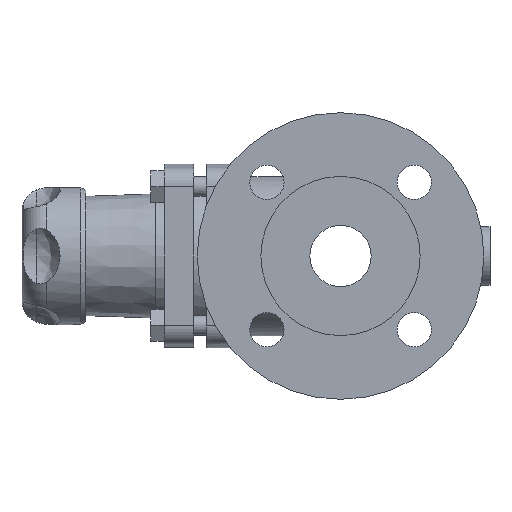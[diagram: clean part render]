
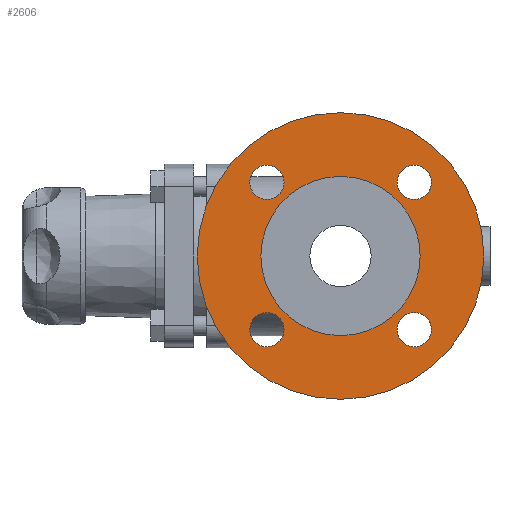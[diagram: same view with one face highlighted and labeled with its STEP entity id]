
A CAD part, left-side view. The second image highlights one B-rep face of the part: STEP entity #2606.
In plain terms, the highlighted planar face has unit normal (-1, 0, 0).
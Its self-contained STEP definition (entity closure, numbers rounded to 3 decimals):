
#129=FACE_BOUND('',#582,.T.);
#130=FACE_BOUND('',#583,.T.);
#131=FACE_BOUND('',#584,.T.);
#132=FACE_BOUND('',#585,.T.);
#133=FACE_BOUND('',#586,.T.);
#174=PLANE('',#2891);
#269=CIRCLE('',#2782,32.5);
#270=CIRCLE('',#2783,32.5);
#277=CIRCLE('',#2793,58.5);
#278=CIRCLE('',#2794,58.5);
#314=CIRCLE('',#2868,7.);
#315=CIRCLE('',#2869,7.);
#324=CIRCLE('',#2884,7.);
#325=CIRCLE('',#2885,7.);
#327=CIRCLE('',#2892,7.);
#328=CIRCLE('',#2893,7.);
#415=FACE_OUTER_BOUND('',#581,.T.);
#581=EDGE_LOOP('',(#2149,#2150));
#582=EDGE_LOOP('',(#2151));
#583=EDGE_LOOP('',(#2152));
#584=EDGE_LOOP('',(#2153,#2154));
#585=EDGE_LOOP('',(#2155,#2156));
#586=EDGE_LOOP('',(#2157,#2158));
#1152=VERTEX_POINT('',#4570);
#1153=VERTEX_POINT('',#4571);
#1160=VERTEX_POINT('',#4591);
#1161=VERTEX_POINT('',#4593);
#1230=VERTEX_POINT('',#5051);
#1231=VERTEX_POINT('',#5053);
#1240=VERTEX_POINT('',#5080);
#1241=VERTEX_POINT('',#5082);
#1245=VERTEX_POINT('',#5099);
#1246=VERTEX_POINT('',#5101);
#1447=EDGE_CURVE('',#1152,#1153,#269,.T.);
#1448=EDGE_CURVE('',#1153,#1152,#270,.T.);
#1458=EDGE_CURVE('',#1160,#1161,#277,.T.);
#1459=EDGE_CURVE('',#1161,#1160,#278,.T.);
#1564=EDGE_CURVE('',#1230,#1231,#314,.T.);
#1565=EDGE_CURVE('',#1231,#1230,#315,.T.);
#1577=EDGE_CURVE('',#1240,#1241,#324,.T.);
#1578=EDGE_CURVE('',#1241,#1240,#325,.T.);
#1585=EDGE_CURVE('',#1245,#1245,#327,.T.);
#1586=EDGE_CURVE('',#1246,#1246,#328,.T.);
#2149=ORIENTED_EDGE('',*,*,#1459,.F.);
#2150=ORIENTED_EDGE('',*,*,#1458,.F.);
#2151=ORIENTED_EDGE('',*,*,#1585,.T.);
#2152=ORIENTED_EDGE('',*,*,#1586,.T.);
#2153=ORIENTED_EDGE('',*,*,#1447,.T.);
#2154=ORIENTED_EDGE('',*,*,#1448,.T.);
#2155=ORIENTED_EDGE('',*,*,#1578,.F.);
#2156=ORIENTED_EDGE('',*,*,#1577,.F.);
#2157=ORIENTED_EDGE('',*,*,#1565,.F.);
#2158=ORIENTED_EDGE('',*,*,#1564,.F.);
#2606=ADVANCED_FACE('',(#415,#129,#130,#131,#132,#133),#174,.T.);
#2782=AXIS2_PLACEMENT_3D('',#4572,#3242,#3243);
#2783=AXIS2_PLACEMENT_3D('',#4573,#3244,#3245);
#2793=AXIS2_PLACEMENT_3D('',#4594,#3267,#3268);
#2794=AXIS2_PLACEMENT_3D('',#4595,#3269,#3270);
#2868=AXIS2_PLACEMENT_3D('',#5054,#3458,#3459);
#2869=AXIS2_PLACEMENT_3D('',#5055,#3460,#3461);
#2884=AXIS2_PLACEMENT_3D('',#5083,#3493,#3494);
#2885=AXIS2_PLACEMENT_3D('',#5084,#3495,#3496);
#2891=AXIS2_PLACEMENT_3D('',#5098,#3512,#3513);
#2892=AXIS2_PLACEMENT_3D('',#5100,#3514,#3515);
#2893=AXIS2_PLACEMENT_3D('',#5102,#3516,#3517);
#3242=DIRECTION('center_axis',(1.,0.,0.));
#3243=DIRECTION('ref_axis',(0.,1.,0.));
#3244=DIRECTION('center_axis',(1.,0.,0.));
#3245=DIRECTION('ref_axis',(0.,1.,0.));
#3267=DIRECTION('center_axis',(1.,0.,0.));
#3268=DIRECTION('ref_axis',(0.,1.,0.));
#3269=DIRECTION('center_axis',(1.,0.,0.));
#3270=DIRECTION('ref_axis',(0.,1.,0.));
#3458=DIRECTION('center_axis',(-1.,0.,0.));
#3459=DIRECTION('ref_axis',(0.,1.,0.));
#3460=DIRECTION('center_axis',(-1.,0.,0.));
#3461=DIRECTION('ref_axis',(0.,1.,0.));
#3493=DIRECTION('center_axis',(-1.,0.,0.));
#3494=DIRECTION('ref_axis',(0.,0.,1.));
#3495=DIRECTION('center_axis',(-1.,0.,0.));
#3496=DIRECTION('ref_axis',(0.,0.,1.));
#3512=DIRECTION('center_axis',(-1.,0.,0.));
#3513=DIRECTION('ref_axis',(0.,-1.,0.));
#3514=DIRECTION('center_axis',(1.,0.,0.));
#3515=DIRECTION('ref_axis',(0.,0.,1.));
#3516=DIRECTION('center_axis',(1.,0.,0.));
#3517=DIRECTION('ref_axis',(0.,-1.,0.));
#4570=CARTESIAN_POINT('',(-34.145,40.37,-7.));
#4571=CARTESIAN_POINT('',(-34.145,7.87,-39.5));
#4572=CARTESIAN_POINT('Origin',(-34.145,40.37,-39.5));
#4573=CARTESIAN_POINT('Origin',(-34.145,40.37,-39.5));
#4591=CARTESIAN_POINT('',(-34.145,-18.13,-39.5));
#4593=CARTESIAN_POINT('',(-34.145,40.37,19.));
#4594=CARTESIAN_POINT('Origin',(-34.145,40.37,-39.5));
#4595=CARTESIAN_POINT('Origin',(-34.145,40.37,-39.5));
#5051=CARTESIAN_POINT('',(-34.145,63.422,-69.552));
#5053=CARTESIAN_POINT('',(-34.145,77.422,-69.552));
#5054=CARTESIAN_POINT('Origin',(-34.145,70.422,-69.552));
#5055=CARTESIAN_POINT('Origin',(-34.145,70.422,-69.552));
#5080=CARTESIAN_POINT('',(-34.145,70.422,-16.448));
#5082=CARTESIAN_POINT('',(-34.145,70.422,-2.448));
#5083=CARTESIAN_POINT('Origin',(-34.145,70.422,-9.448));
#5084=CARTESIAN_POINT('Origin',(-34.145,70.422,-9.448));
#5098=CARTESIAN_POINT('Origin',(-34.145,65.408,-8.059));
#5099=CARTESIAN_POINT('',(-34.145,10.318,-16.448));
#5100=CARTESIAN_POINT('Origin',(-34.145,10.318,-9.448));
#5101=CARTESIAN_POINT('',(-34.145,17.318,-69.552));
#5102=CARTESIAN_POINT('Origin',(-34.145,10.318,-69.552));
